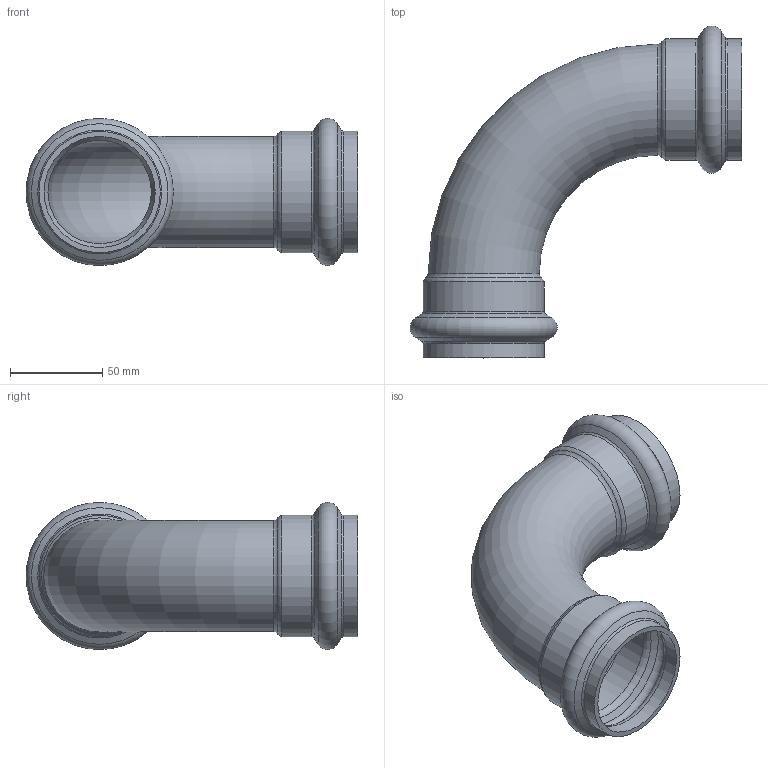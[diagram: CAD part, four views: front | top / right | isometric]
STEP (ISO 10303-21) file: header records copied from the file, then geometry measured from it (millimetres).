
FILE_DESCRIPTION(/* description */ ('VIC 90 DEG ST ELBOW STYLE P568 (P X P)','CAx-IF Rec.Pracs.---Representation and Presentation of Product Manufacturing Information (PMI)---4.0---2014-10-13'),/* implementation_level */ '2;1');
FILE_NAME(/* name */ 'C:\Users\kkamble\AppData\Roaming\Autodesk\ApplicationPlugins\Back Up\Victaulic_SS-Vic-Press-TP 316_Elbow 90 Deg_Style P568 (VP)\Victaulic_SS-Vic-Press-TP 316_Elbow 90 Deg_Style P568 (VP)_2 (50).stp',/* time_stamp */ '2020-08-14T14:06:41+06:00',/* author */ ('cgray'),/* organization */ ('Victaulic'),/* preprocessor_version */ 'ST-DEVELOPER v17.2',/* originating_system */ 'Autodesk Inventor 2019',/* authorisation */ '');
FILE_SCHEMA (('AP242_MANAGED_MODEL_BASED_3D_ENGINEERING_MIM_LF { 1 0 10303 442 1 1 4 }'));
Length unit declared in the file: inch
Products named in the file (1): P568-02.0
Bounding box: 180.17 x 180.17 x 79.93 mm (x, y, z)
Volume: 116620.6 mm3; surface area: 99227.3 mm2
Topology: 1 solids, 1 shells, 38 faces, 140 edges, 104 vertices
Faces by surface type: torus 18, cone 10, cylinder 8, plane 2
Full cylindrical faces by diameter (mm): 60.325 x4, 65.862 x4
Entity records: 1796 total; most frequent: DIRECTION 366, CARTESIAN_POINT 300, ORIENTED_EDGE 280, AXIS2_PLACEMENT_3D 174, EDGE_CURVE 140, CIRCLE 122, VERTEX_POINT 104, EDGE_LOOP 40
